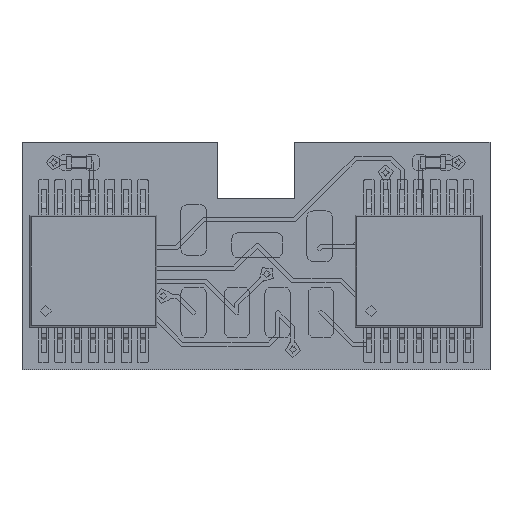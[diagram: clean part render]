
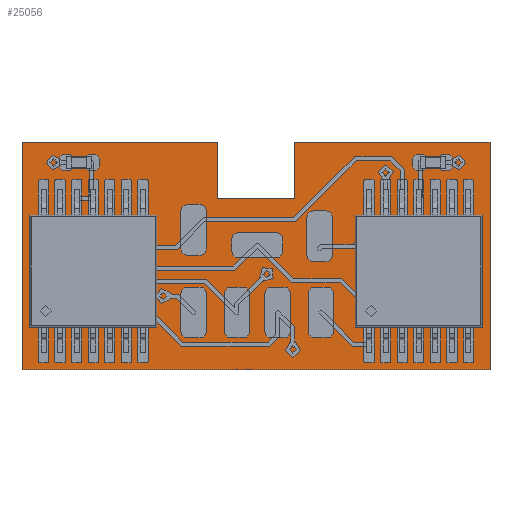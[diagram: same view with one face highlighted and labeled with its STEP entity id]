
A CAD part, top view. The second image highlights one B-rep face of the part: STEP entity #25056.
In plain terms, the highlighted planar face has unit normal (0, 0, 1).
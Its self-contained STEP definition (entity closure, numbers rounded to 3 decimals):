
#24799 = VERTEX_POINT('',#24800);
#24800 = CARTESIAN_POINT('',(103.73,-50.47,1.51));
#24806 = EDGE_CURVE('',#24799,#24807,#24809,.T.);
#24807 = VERTEX_POINT('',#24808);
#24808 = CARTESIAN_POINT('',(106.77,-50.47,1.51));
#24809 = LINE('',#24810,#24811);
#24810 = CARTESIAN_POINT('',(103.73,-50.47,1.51));
#24811 = VECTOR('',#24812,1.);
#24812 = DIRECTION('',(1.,0.,0.));
#24837 = EDGE_CURVE('',#24807,#24838,#24840,.T.);
#24838 = VERTEX_POINT('',#24839);
#24839 = CARTESIAN_POINT('',(106.77,-48.25,1.51));
#24840 = LINE('',#24841,#24842);
#24841 = CARTESIAN_POINT('',(106.77,-50.47,1.51));
#24842 = VECTOR('',#24843,1.);
#24843 = DIRECTION('',(0.,1.,0.));
#24868 = EDGE_CURVE('',#24838,#24869,#24871,.T.);
#24869 = VERTEX_POINT('',#24870);
#24870 = CARTESIAN_POINT('',(114.45,-48.25,1.51));
#24871 = LINE('',#24872,#24873);
#24872 = CARTESIAN_POINT('',(106.77,-48.25,1.51));
#24873 = VECTOR('',#24874,1.);
#24874 = DIRECTION('',(1.,0.,0.));
#24899 = EDGE_CURVE('',#24869,#24900,#24902,.T.);
#24900 = VERTEX_POINT('',#24901);
#24901 = CARTESIAN_POINT('',(114.45,-57.2,1.51));
#24902 = LINE('',#24903,#24904);
#24903 = CARTESIAN_POINT('',(114.45,-48.25,1.51));
#24904 = VECTOR('',#24905,1.);
#24905 = DIRECTION('',(0.,-1.,0.));
#24930 = EDGE_CURVE('',#24900,#24931,#24933,.T.);
#24931 = VERTEX_POINT('',#24932);
#24932 = CARTESIAN_POINT('',(96.05,-57.2,1.51));
#24933 = LINE('',#24934,#24935);
#24934 = CARTESIAN_POINT('',(114.45,-57.2,1.51));
#24935 = VECTOR('',#24936,1.);
#24936 = DIRECTION('',(-1.,0.,0.));
#24961 = EDGE_CURVE('',#24931,#24962,#24964,.T.);
#24962 = VERTEX_POINT('',#24963);
#24963 = CARTESIAN_POINT('',(96.05,-48.25,1.51));
#24964 = LINE('',#24965,#24966);
#24965 = CARTESIAN_POINT('',(96.05,-57.2,1.51));
#24966 = VECTOR('',#24967,1.);
#24967 = DIRECTION('',(0.,1.,0.));
#24992 = EDGE_CURVE('',#24962,#24993,#24995,.T.);
#24993 = VERTEX_POINT('',#24994);
#24994 = CARTESIAN_POINT('',(103.73,-48.25,1.51));
#24995 = LINE('',#24996,#24997);
#24996 = CARTESIAN_POINT('',(96.05,-48.25,1.51));
#24997 = VECTOR('',#24998,1.);
#24998 = DIRECTION('',(1.,0.,0.));
#25023 = EDGE_CURVE('',#24993,#24799,#25024,.T.);
#25024 = LINE('',#25025,#25026);
#25025 = CARTESIAN_POINT('',(103.73,-48.25,1.51));
#25026 = VECTOR('',#25027,1.);
#25027 = DIRECTION('',(0.,-1.,0.));
#25056 = ADVANCED_FACE('',(#25057),#25067,.T.);
#25057 = FACE_BOUND('',#25058,.F.);
#25058 = EDGE_LOOP('',(#25059,#25060,#25061,#25062,#25063,#25064,#25065,
    #25066));
#25059 = ORIENTED_EDGE('',*,*,#24806,.T.);
#25060 = ORIENTED_EDGE('',*,*,#24837,.T.);
#25061 = ORIENTED_EDGE('',*,*,#24868,.T.);
#25062 = ORIENTED_EDGE('',*,*,#24899,.T.);
#25063 = ORIENTED_EDGE('',*,*,#24930,.T.);
#25064 = ORIENTED_EDGE('',*,*,#24961,.T.);
#25065 = ORIENTED_EDGE('',*,*,#24992,.T.);
#25066 = ORIENTED_EDGE('',*,*,#25023,.T.);
#25067 = PLANE('',#25068);
#25068 = AXIS2_PLACEMENT_3D('',#25069,#25070,#25071);
#25069 = CARTESIAN_POINT('',(0.,0.,1.51));
#25070 = DIRECTION('',(0.,0.,1.));
#25071 = DIRECTION('',(1.,0.,-0.));
